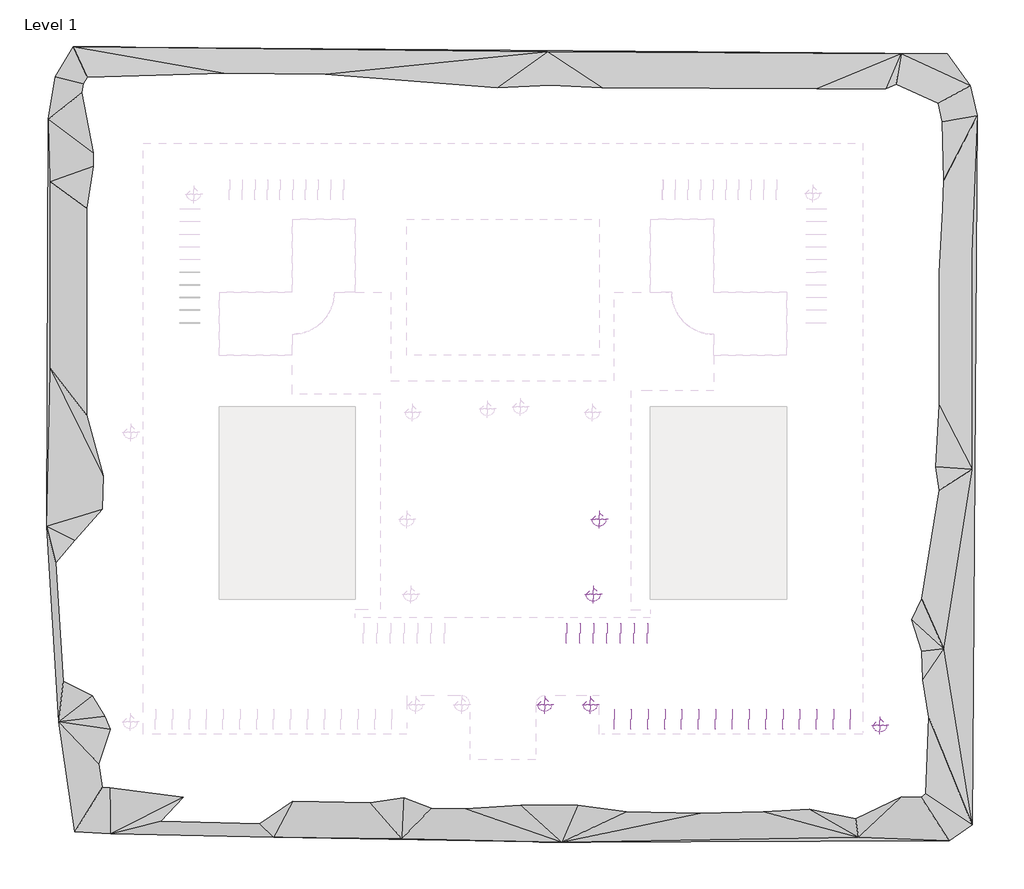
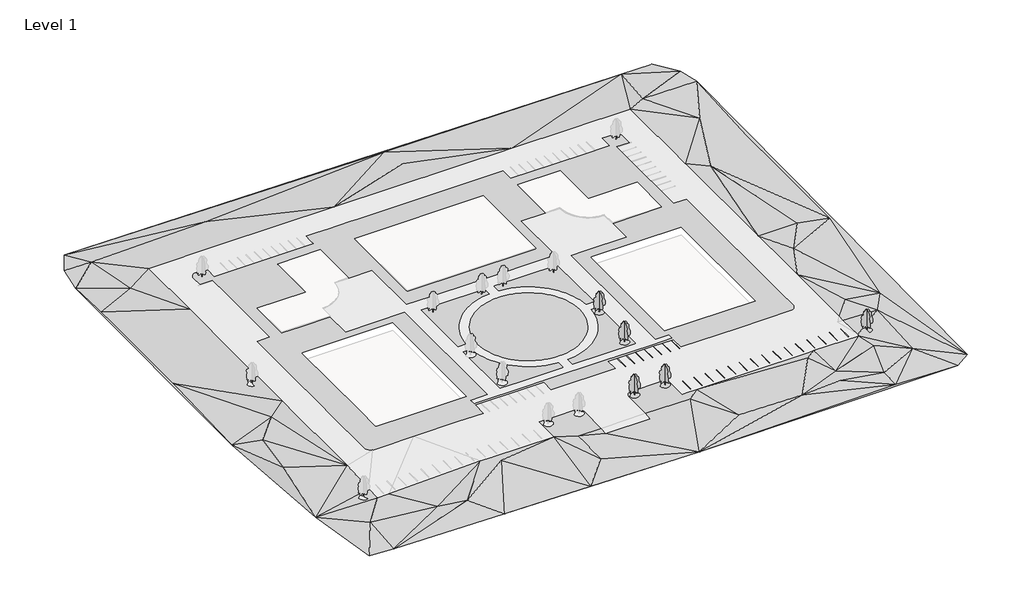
# One storey, part 2 of 3: 23 proxies, 5 geographic elements.
"""IFC4 building model written with IfcOpenShell, lengths in millimetres."""

from ifc_helpers import new_model, si_unit, origin, place, context, project, spatial, triangles, transform, mapped, element, save
from components import m_parking_space_4800_x_2400mm_90_deg_2b7ae786, m_parking_space_4800_x_2400mm_90_deg_cf846cf7, m_rpc_tree_deciduous_red_ash_7_6_meters_16c8020d

model = new_model("IFC4")

# Units and contexts
model_context = context("Model", 3, world=origin())
ifc_project = project(units=[si_unit("LENGTHUNIT", "METRE", prefix="MILLI")], contexts=[model_context])

# Site, building, storey
site = spatial("IfcSite", under=ifc_project)
building = spatial("IfcBuilding", under=site)
storey = spatial("IfcBuildingStorey", under=building, Name="Level 1", Elevation=0.0)

# Proxies
placement = place(None, origin())
element("IfcBuildingElementProxy", 1, Name="Building Element Proxy", at=placement, inside=storey, context=model_context, shape_type="Tessellation", body=[
    triangles([(-102169.9776123, 90842.6318115, 0.0), (-106385.301709, 83676.5947998, 0.0), (-108071.4220459, 73559.8262695, 0.0), (-108492.9591064, -22970.9839233, 0.0), (-105542.2368896, -69339.4931763, 0.0), (-101748.4498535, -95474.4700195, 0.0), (-93317.8109619, -95896.0070801, 0.0), (-54536.8711304, -96739.0718994, 0.0), (13751.2978455, -98003.6644775, 0.0), (105645.2538574, -97582.127417, 0.0), (111125.1705322, -93788.3403809, 0.0), (112389.7631104, 74402.8910889, 0.0), (110703.6427734, 81568.9281006, 0.0), (105223.7260986, 89156.5021729, 0.0), (-85535.6813232, -72322.6413208, 1983.1879601), (-85535.6813232, -67074.5988647, 2206.9487206), (-85535.6813232, -53825.1843384, 3049.9998779), (-85535.6813232, -14016.0200592, 3049.9998779), (-85535.6813232, 17541.3572021, 3049.9998779), (-85535.6813232, 42777.6354126, 3049.9998779), (-85535.6813232, 67885.3586792, 3049.9998779), (-60150.6587036, 67885.3586792, 3049.9998779), (-19981.6152283, 67885.3586792, 3049.9998779), (43350.9678589, 67885.3586792, 3049.9998779), (85152.3186768, 67885.3586792, 3049.9998779), (85152.3186768, 34057.6467407, 3049.9998779), (85152.3186768, -10563.9423981, 3049.9998779), (85152.3186768, -26828.7577515, 3049.9998779), (85152.3186768, -34557.1511353, 3049.9998779), (85152.3186768, -53151.4626709, 3049.9998779), (85152.3186768, -60490.0798462, 3049.9998779), (85152.3186768, -62436.5610352, 2858.9560158), (85152.3186768, -71605.2292969, 3049.9998779), (85152.3186768, -72322.6413208, 3049.9998779), (69215.7286377, -72322.6413208, 3049.9998779), (66812.228833, -72322.6413208, 3049.9998779), (27666.706604, -72322.6413208, 3049.9998779), (23909.6359314, -72322.6413208, 3049.9998779), (22616.3195251, -72322.6413208, 3049.9998779), (22616.3195251, -63177.6413818, 3049.9998779), (19669.4412598, -63177.6413818, 3049.9998779), (9771.5802979, -63177.6413818, 3049.9998779), (9351.1100327, -63219.0574585, 3049.9998779), (8946.7975021, -63341.7011353, 3049.9998779), (8574.1812927, -63540.8703735, 3049.9998779), (8247.5802979, -63808.9051758, 3049.9998779), (7979.546077, -64135.5038452, 3049.9998779), (7780.3785828, -64508.1229614, 3049.9998779), (7657.7319992, -64912.4331665, 3049.9998779), (7616.3188293, -65332.9051758, 3049.9998779), (7616.3188293, -75662.4746704, 3049.9998779), (7616.3188293, -78418.6459717, 2673.7301125), (-7999.6808945, -78418.6459717, 2673.7301125), (-7999.6808945, -75662.4746704, 3049.9998779), (-7999.6808945, -65332.9051758, 3049.9998779), (-8041.093483, -64912.4331665, 3049.9998779), (-8163.7406479, -64508.1229614, 3049.9998779), (-8362.9081421, -64135.5038452, 3049.9998779), (-8630.942363, -63808.9051758, 3049.9998779), (-8957.5433578, -63540.8703735, 3049.9998779), (-9330.1595673, -63341.7011353, 3049.9998779), (-9734.4715164, -63219.0574585, 3049.9998779), (-10154.9429443, -63177.6413818, 3049.9998779), (-16508.3272339, -63177.6413818, 3049.9998779), (-22999.6798462, -63177.6413818, 3049.9998779), (-22999.6798462, -69598.8029297, 3049.9998779), (-22999.6798462, -72322.6413208, 3049.9998779), (-45175.5681152, -72322.6413208, 3049.9998779), (-48930.6040283, -72322.6413208, 3049.9998779), (-81381.8232422, -72322.6413208, 2006.5802822), (-35191.6798462, 5349.3572021, 3049.9998779), (-67499.679895, 5349.3572021, 3049.9998779), (-67499.679895, -30046.6427307, 3049.9998779), (-67499.679895, -40071.9028931, 3049.9998779), (-67499.679895, -40266.6444946, 3049.9998779), (-67364.8788208, -40266.6444946, 3049.9998779), (-56001.1957031, -40266.6444946, 3049.9998779), (-35191.6798462, -40266.6444946, 3049.9998779), (22616.3195251, 17541.3572021, 3049.9998779), (22616.3195251, 49849.357251, 3049.9998779), (-14525.1052643, 49849.357251, 3049.9998779), (-19503.6444031, 49849.357251, 3049.9998779), (-22999.6798462, 49849.357251, 3049.9998779), (-22999.6798462, 17541.3572021, 3049.9998779), (-18647.4536407, 17541.3572021, 3049.9998779), (-4750.8262939, 17541.3572021, 3049.9998779), (34808.3195251, -40266.6444946, 3049.9998779), (67116.3172485, -40266.6444946, 3049.9998779), (67116.3172485, 5349.3572021, 3049.9998779), (34808.3195251, 5349.3572021, 3049.9998779), (-76390.6813843, 17541.3572021, 3049.9998779), (-76390.6813843, -2590.5180405, 3049.9998779), (-76390.6813843, -22144.2111328, 3049.9998779), (-76390.6813843, -27227.4310913, 3049.9998779), (-76390.6813843, -48539.3813965, 3049.9998779), (-76349.2699585, -48959.8534058, 3049.9998779), (-76226.6216309, -49364.1636108, 3049.9998779), (-76027.4523926, -49736.7780762, 3049.9998779), (-75759.4175903, -50063.3813965, 3049.9998779), (-75432.8189209, -50331.4161987, 3049.9998779), (-75060.2044556, -50530.585437, 3049.9998779), (-74655.8895996, -50653.2291138, 3049.9998779), (-74235.4175903, -50694.6405396, 3049.9998779), (-60146.5705811, -50694.6405396, 3049.9998779), (-44268.6885864, -50694.6405396, 3049.9998779), (-35191.6798462, -50694.6405396, 3049.9998779), (-35191.6798462, -45694.6434082, 3049.9998779), (-16971.6419769, -45694.6434082, 3049.9998779), (-11191.6808258, -45694.6434082, 3049.9998779), (-11191.6808258, -50266.6434082, 3049.9998779), (11808.3187683, -50266.6434082, 3049.9998779), (11808.3187683, -45694.6434082, 3049.9998779), (14380.2350372, -45694.6434082, 3049.9998779), (27601.8896301, -45694.6434082, 3049.9998779), (34808.3195251, -45694.6434082, 3049.9998779), (34808.3195251, -50266.6434082, 3049.9998779), (55536.4473267, -50266.6434082, 3049.9998779), (73852.0595947, -50266.6434082, 3049.9998779), (74272.5269531, -50225.2319824, 3049.9998779), (74676.8418091, -50102.5836548, 3049.9998779), (75049.4562744, -49903.4144165, 3049.9998779), (75376.0595947, -49635.3796143, 3049.9998779), (75644.0897461, -49308.7809448, 3049.9998779), (75843.2589844, -48936.1618286, 3049.9998779), (75965.907312, -48531.8516235, 3049.9998779), (76007.3187378, -48111.3796143, 3049.9998779), (76007.3187378, -40266.6444946, 3049.9998779), (76007.3187378, -34066.0741333, 3049.9998779), (76007.3187378, 6598.6321106, 3049.9998779), (76007.3187378, 17541.3572021, 3049.9998779), (71435.3187378, 17541.3572021, 3049.9998779), (71435.3187378, 45158.1180176, 3049.9998779), (71435.3187378, 52541.3557251, 3049.9998779), (76007.3187378, 52541.3557251, 3049.9998779), (76007.3187378, 56585.0949463, 3049.9998779), (75965.907312, 57005.5669556, 3049.9998779), (75843.2589844, 57409.8771606, 3049.9998779), (75644.0897461, 57782.4962769, 3049.9998779), (75376.0595947, 58109.0949463, 3049.9998779), (75049.4562744, 58377.1297485, 3049.9998779), (74676.8418091, 58576.2989868, 3049.9998779), (74272.5269531, 58698.9426636, 3049.9998779), (73852.0595947, 58740.3587402, 3049.9998779), (69808.3203735, 58740.3587402, 3049.9998779), (69808.3203735, 54168.3587402, 3049.9998779), (60301.2448608, 54168.3587402, 3049.9998779), (50660.0054443, 54168.3587402, 3049.9998779), (41448.958374, 54168.3587402, 3049.9998779), (34808.3195251, 54168.3587402, 3049.9998779), (34808.3195251, 58740.3587402, 3049.9998779), (-17214.9375916, 58740.3587402, 3049.9998779), (-19739.2625793, 58740.3587402, 3049.9998779), (-27301.2963501, 58740.3587402, 3049.9998779), (-31889.525592, 58740.3587402, 3049.9998779), (-35191.6798462, 58740.3587402, 3049.9998779), (-35191.6798462, 56204.3786499, 3049.9998779), (-35191.6798462, 54168.3587402, 3049.9998779), (-37842.8319763, 54168.3587402, 3049.9998779), (-67067.1993164, 54168.3587402, 3049.9998779), (-70191.68302, 54168.3587402, 3049.9998779), (-70191.68302, 57954.0206909, 3049.9998779), (-70191.68302, 58740.3587402, 3049.9998779), (-74235.4175903, 58740.3587402, 3049.9998779), (-74655.8895996, 58698.9426636, 3049.9998779), (-75060.2044556, 58576.2989868, 3049.9998779), (-75432.8189209, 58377.1297485, 3049.9998779), (-75759.4175903, 58109.0949463, 3049.9998779), (-76027.4523926, 57782.4962769, 3049.9998779), (-76226.6216309, 57409.8771606, 3049.9998779), (-76349.2699585, 57005.5669556, 3049.9998779), (-76390.6813843, 56585.0949463, 3049.9998779), (-76390.6813843, 52541.3557251, 3049.9998779), (-75664.1257324, 52541.3557251, 3049.9998779), (-71818.6813843, 52541.3557251, 3049.9998779), (-71818.6813843, 44745.1385742, 3049.9998779), (-71818.6813843, 28075.6955933, 3049.9998779), (-71818.6813843, 17541.3572021, 3049.9998779), (67116.3172485, 17541.3572021, 3049.9998779), (49808.3178955, 17541.3572021, 3049.9998779), (49808.3178955, 9180.7314789, 3049.9998779), (35210.9461121, 9180.7314789, 3049.9998779), (30133.6467224, 9180.7314789, 3049.9998779), (30133.6467224, -27435.9834778, 3049.9998779), (30133.6467224, -42819.2700806, 3049.9998779), (34808.3195251, -42819.2700806, 3049.9998779), (34808.3195251, -44694.6439819, 3049.9998779), (27740.5509338, -44694.6439819, 3049.9998779), (14077.7000153, -44694.6439819, 3049.9998779), (11808.3187683, -44694.6439819, 3049.9998779), (-11191.6808258, -44694.6439819, 3049.9998779), (-16998.1438477, -44694.6439819, 3049.9998779), (-35191.6798462, -44694.6439819, 3049.9998779), (-35191.6798462, -42694.6404785, 3049.9998779), (-29191.6809631, -42694.6404785, 3049.9998779), (-29191.6809631, 8305.3575851, 3049.9998779), (-50191.680542, 8305.3575851, 3049.9998779), (-50191.680542, 17541.3572021, 3049.9998779), (-60277.078894, 17541.3572021, 3049.9998779), (-67499.679895, 17541.3572021, 3049.9998779), (-67499.679895, 31392.5861572, 3049.9998779), (-67499.679895, 32541.3578979, 3049.9998779), (-66003.8409668, 32541.3578979, 3049.9998779), (-50191.680542, 32541.3578979, 3049.9998779), (-50191.680542, 44684.7283081, 3049.9998779), (-50191.680542, 49849.357251, 3049.9998779), (-43466.7003296, 49849.357251, 3049.9998779), (-35191.6798462, 49849.357251, 3049.9998779), (-35191.6798462, 48882.337207, 3049.9998779), (-35191.6798462, 32541.3578979, 3049.9998779), (-26831.0552856, 32541.3578979, 3049.9998779), (-26831.0552856, 11541.3571564, 3049.9998779), (-18488.44823, 11541.3571564, 3049.9998779), (-2935.6202316, 11541.3571564, 3049.9998779), (26168.9445374, 11541.3571564, 3049.9998779), (26168.9445374, 32541.3578979, 3049.9998779), (34808.3195251, 32541.3578979, 3049.9998779), (34808.3195251, 49849.357251, 3049.9998779), (40850.0833008, 49849.357251, 3049.9998779), (49808.3178955, 49849.357251, 3049.9998779), (49808.3178955, 32541.3578979, 3049.9998779), (62183.8555298, 32541.3578979, 3049.9998779), (67116.3172485, 32541.3578979, 3049.9998779), (67116.3172485, 23284.5205994, 3049.9998779), (-21426.7688782, -15958.6421814, 3049.9998779), (-21275.5246216, -14517.4743347, 3049.9998779), (-21026.5863281, -13089.9335632, 3049.9998779), (-20681.1097412, -11682.6357422, 3049.9998779), (-20240.6924377, -10302.1014038, 3049.9998779), (-19707.3761536, -8954.727832, 3049.9998779), (-19083.6328308, -7646.7576691, 3049.9998779), (-18372.351828, -6384.2515915, 3049.9998779), (-18027.3240509, -5858.9429581, 3049.9998779), (-17576.8294556, -5173.0592422, 3049.9998779), (-16700.751535, -4018.7939415, 3049.9998779), (-15748.177121, -2926.8027466, 3049.9998779), (-14723.5210602, -1902.1463951, 3049.9998779), (-13631.5295746, -949.5721264, 3049.9998779), (-12477.2639832, -73.4940514, 3049.9998779), (-11266.0716339, 722.0285299, 3049.9998779), (-10003.5661377, 1433.3094601, 3049.9998779), (-8695.5959747, 2057.0529282, 3049.9998779), (-7348.222403, 2590.3689217, 3049.9998779), (-5967.6880646, 3030.7859344, 3049.9998779), (-4560.3902435, 3376.2636841, 3049.9998779), (-3132.8497627, 3625.2011055, 3049.9998779), (-1691.6808987, 3776.4450714, 3049.9998779), (-1691.6808987, 6776.4450943, 3049.9998779), (-18362.1733795, 6776.4450943, 3049.9998779), (-24426.7694824, 6776.4450943, 3049.9998779), (-24426.7694824, -15958.6421814, 3049.9998779), (-21426.7688782, -18958.6427856, 3049.9998779), (-24426.7694824, -18958.6427856, 3049.9998779), (-24426.7694824, -41693.72948, 3049.9998779), (-17077.6703888, -41693.72948, 3049.9998779), (-1691.6808987, -41693.72948, 3049.9998779), (-1691.6808987, -38693.7312012, 3049.9998779), (-3132.8497627, -38542.4869446, 3049.9998779), (-4560.3902435, -38293.5486511, 3049.9998779), (-5967.6880646, -37948.0720642, 3049.9998779), (-7348.222403, -37507.6547607, 3049.9998779), (-8695.5959747, -36974.3384766, 3049.9998779), (-10003.5661377, -36350.5951538, 3049.9998779), (-11266.0716339, -35639.3129883, 3049.9998779), (-12477.2639832, -34843.7917786, 3049.9998779), (-13631.5295746, -33967.7126953, 3049.9998779), (-14723.5210602, -33015.1382813, 3049.9998779), (-15748.177121, -31990.4822205, 3049.9998779), (-16700.751535, -30898.4907349, 3049.9998779), (-17387.7409973, -29993.3576111, 3049.9998779), (-17576.8294556, -29744.2263062, 3049.9998779), (-18372.351828, -28533.0327942, 3049.9998779), (-19083.6328308, -27270.5284607, 3049.9998779), (-19707.3761536, -25962.557135, 3049.9998779), (-20240.6924377, -24615.1835632, 3049.9998779), (-20681.1097412, -23234.6492249, 3049.9998779), (-21026.5863281, -21827.3514038, 3049.9998779), (-21275.5246216, -20399.8106323, 3049.9998779), (1308.3191242, 3776.4450714, 3049.9998779), (2749.4876976, 3625.2011055, 3049.9998779), (4177.0284691, 3376.2636841, 3049.9998779), (5584.3259995, 3030.7859344, 3049.9998779), (6964.8603378, 2590.3689217, 3049.9998779), (8312.2339096, 2057.0529282, 3049.9998779), (9620.2040726, 1433.3094601, 3049.9998779), (10882.7101501, 722.0285299, 3049.9998779), (12093.9024994, -73.4940514, 3049.9998779), (13248.1680908, -949.5721264, 3049.9998779), (14340.1584137, -1902.1463951, 3049.9998779), (15364.8156372, -2926.8027466, 3049.9998779), (16317.3900513, -4018.7939415, 3049.9998779), (17193.4679718, -5173.0592422, 3049.9998779), (17988.9903442, -6384.2515915, 3049.9998779), (18700.271347, -7646.7576691, 3049.9998779), (19324.0146698, -8954.727832, 3049.9998779), (19857.3297913, -10302.1014038, 3049.9998779), (20297.7470947, -11682.6357422, 3049.9998779), (20643.2260071, -13089.9335632, 3049.9998779), (20892.1619751, -14517.4743347, 3049.9998779), (21043.4062317, -15958.6421814, 3049.9998779), (24043.4068359, -15958.6421814, 3049.9998779), (24043.4068359, 6776.4450943, 3049.9998779), (1308.3191242, 6776.4450943, 3049.9998779), (21043.4062317, -18958.6427856, 3049.9998779), (20892.1619751, -20399.8106323, 3049.9998779), (20643.2260071, -21827.3514038, 3049.9998779), (20297.7470947, -23234.6492249, 3049.9998779), (19857.3297913, -24615.1835632, 3049.9998779), (19324.0146698, -25962.557135, 3049.9998779), (18700.271347, -27270.5284607, 3049.9998779), (17988.9903442, -28533.0327942, 3049.9998779), (17193.4679718, -29744.2263062, 3049.9998779), (16317.3900513, -30898.4907349, 3049.9998779), (15364.8156372, -31990.4822205, 3049.9998779), (14340.1584137, -33015.1382813, 3049.9998779), (13248.1680908, -33967.7126953, 3049.9998779), (12093.9024994, -34843.7917786, 3049.9998779), (11262.6544006, -35389.7631042, 3049.9998779), (10882.7101501, -35639.3129883, 3049.9998779), (9620.2040726, -36350.5951538, 3049.9998779), (8312.2339096, -36974.3384766, 3049.9998779), (6964.8603378, -37507.6547607, 3049.9998779), (5584.3259995, -37948.0720642, 3049.9998779), (4177.0284691, -38293.5486511, 3049.9998779), (2749.4876976, -38542.4869446, 3049.9998779), (1308.3191242, -38693.7312012, 3049.9998779), (1308.3191242, -41693.72948, 3049.9998779), (13169.8217102, -41693.72948, 3049.9998779), (24043.4068359, -41693.72948, 3049.9998779), (24043.4068359, -18958.6427856, 3049.9998779), (-18479.6813232, -17458.6424835, 3049.9998779), (-18430.8936035, -18793.5807678, 3049.9998779), (-18284.7920563, -20121.3973938, 3049.9998779), (-18042.1568665, -21435.0055847, 3049.9998779), (-17704.2809784, -22727.3987915, 3049.9998779), (-17569.8531372, -23121.439856, 3049.9998779), (-17272.9677704, -23991.6820862, 3049.9998779), (-16750.5182648, -25221.1070435, 3049.9998779), (-16139.7206635, -26409.1159241, 3049.9998779), (-15443.8329071, -27549.3719055, 3049.9998779), (-14666.5687225, -28635.7869873, 3049.9998779), (-13812.0743683, -29662.5684998, 3049.9998779), (-12884.9100311, -30624.2377075, 3049.9998779), (-11890.0207581, -31515.6623657, 3049.9998779), (-10832.7166901, -32332.0846252, 3049.9998779), (-9718.6375992, -33069.1535889, 3049.9998779), (-8553.7284714, -33722.9322876, 3049.9998779), (-7344.2040436, -34289.9325623, 3049.9998779), (-6096.5179916, -34767.133667, 3049.9998779), (-4817.3265953, -35151.9845947, 3049.9998779), (-3513.4556007, -35442.4343079, 3049.9998779), (-2191.8615601, -35636.9317383, 3049.9998779), (-859.5957144, -35734.4420654, 3049.9998779), (476.2338309, -35734.4420654, 3049.9998779), (1808.4997856, -35636.9317383, 3049.9998779), (3130.0938263, -35442.4343079, 3049.9998779), (4433.9648209, -35151.9845947, 3049.9998779), (5713.1559265, -34767.133667, 3049.9998779), (6960.8419785, -34289.9325623, 3049.9998779), (8170.3664063, -33722.9322876, 3049.9998779), (9335.2761154, -33069.1535889, 3049.9998779), (10356.2399597, -32393.6901672, 3049.9998779), (10449.3552063, -32332.0846252, 3049.9998779), (11506.6592743, -31515.6623657, 3049.9998779), (12501.5473846, -30624.2377075, 3049.9998779), (13428.7128845, -29662.5684998, 3049.9998779), (14283.2072388, -28635.7869873, 3049.9998779), (15060.4714233, -27549.3719055, 3049.9998779), (15756.3591797, -26409.1159241, 3049.9998779), (16367.156781, -25221.1070435, 3049.9998779), (16889.6051239, -23991.6820862, 3049.9998779), (17320.9183319, -22727.3987915, 3049.9998779), (17658.79422, -21435.0055847, 3049.9998779), (17901.4305725, -20121.3973938, 3049.9998779), (18047.5321198, -18793.5807678, 3049.9998779), (18096.3186768, -17458.6424835, 3049.9998779), (18047.5321198, -16123.7041992, 3049.9998779), (17901.4305725, -14795.888736, 3049.9998779), (17658.79422, -13482.2793823, 3049.9998779), (17320.9183319, -12189.8861755, 3049.9998779), (16889.6051239, -10925.6040436, 3049.9998779), (16367.156781, -9696.1785049, 3049.9998779), (15756.3591797, -8508.169043, 3049.9998779), (15060.4714233, -7367.9142242, 3049.9998779), (14283.2072388, -6281.4979797, 3049.9998779), (13428.7128845, -5254.7164673, 3049.9998779), (12501.5473846, -4293.0478409, 3049.9998779), (11506.6592743, -3401.623764, 3049.9998779), (10449.3552063, -2585.1997604, 3049.9998779), (9335.2761154, -1848.1322502, 3049.9998779), (8170.3664063, -1194.3534061, 3049.9998779), (6960.8419785, -627.3516054, 3049.9998779), (5713.1559265, -150.152054, 3049.9998779), (4433.9648209, 234.699228, 3049.9998779), (3130.0938263, 525.1488685, 3049.9998779), (1808.4997856, 719.6472073, 3049.9998779), (476.2338309, 817.156517, 3049.9998779), (308.8186864, 817.156517, 3049.9998779), (-859.5957144, 817.156517, 3049.9998779), (-2191.8615601, 719.6472073, 3049.9998779), (-3513.4556007, 525.1488685, 3049.9998779), (-4817.3265953, 234.699228, 3049.9998779), (-6096.5179916, -150.152054, 3049.9998779), (-7344.2040436, -627.3516054, 3049.9998779), (-8553.7284714, -1194.3534061, 3049.9998779), (-9718.6375992, -1848.1322502, 3049.9998779), (-10832.7166901, -2585.1997604, 3049.9998779), (-11890.0207581, -3401.623764, 3049.9998779), (-12884.9100311, -4293.0478409, 3049.9998779), (-13812.0743683, -5254.7164673, 3049.9998779), (-14666.5687225, -6281.4979797, 3049.9998779), (-15443.8329071, -7367.9142242, 3049.9998779), (-16139.7206635, -8508.169043, 3049.9998779), (-16750.5182648, -9696.1785049, 3049.9998779), (-17272.9677704, -10925.6040436, 3049.9998779), (-17704.2809784, -12189.8861755, 3049.9998779), (-17845.2584198, -12729.1323303, 3049.9998779), (-18042.1568665, -13482.2793823, 3049.9998779), (-18284.7920563, -14795.888736, 3049.9998779), (-18430.8936035, -16123.7041992, 3049.9998779), (10379.0420563, 89578.0392334, 0.0), (94263.892749, 89156.5021729, 0.0), (111125.1705322, 42366.4651611, 0.0), (111125.1705322, -9481.9619293, 0.0), (104380.6612793, -52056.6829834, 0.0), (84147.1242188, -96739.0718994, 0.0), (-24186.5748413, -97160.5996582, 0.0), (-107649.8942871, 14545.3575165, 0.0), (-107649.8942871, 58806.2105347, 0.0), (-97954.6628174, 81568.9281006, 1524.999939), (11222.1068756, 79461.2707031, 1524.999939), (102273.0038818, 55012.4234985, 1524.999939), (100165.3371826, -8638.8976913, 1524.999939), (98057.6797852, -61330.3866943, 1524.999939), (97214.6149658, -84514.6459717, 1524.999939), (83304.0593994, -91259.1552246, 1524.999939), (33141.7654358, -88729.9607666, 1524.999939), (-15334.4047028, -87886.8959473, 1524.999939), (-71398.1489136, -84936.1737305, 1524.999939), (-93493.1118896, -82017.8774414, 1524.999939), (-100052.7580078, -27195.8632507, 1524.999939), (-91631.6813232, -17912.5996582, 1524.999939), (-94582.40354, 63443.0577393, 1524.999939), (-56644.5331787, 82833.5299805, 1524.999939), (70658.1057129, -83250.0440918, 1524.999939), (55482.9575684, -89151.4978271, 1524.999939), (69393.5084839, -88308.4330078, 1524.999939), (91248.3186768, 70805.124646, 3049.9998779), (91248.3186768, 29124.4641357, 3049.9998779), (91248.3186768, -22004.4080383, 3049.9998779), (65599.7214478, -74819.4098511, 3049.9998779), (23446.5316406, -75662.4746704, 3049.9998779), (-16177.4683594, -75662.4746704, 3049.9998779), (-43155.510022, -75240.9422607, 3049.9998779), (-62967.510022, -88535.4052002, 3049.9998779), (-103013.0424316, -44993.4350464, 3049.9998779), (86676.3186768, -79034.7292969, 3049.9998779), (91248.3186768, -53547.5873291, 3049.9998779)], [[5, 6, 439], [439, 6, 7], [5, 439, 15], [15, 16, 5], [439, 70, 15], [439, 7, 438], [70, 439, 438], [5, 16, 17], [97, 98, 99], [100, 101, 95], [96, 99, 100], [97, 99, 96], [102, 95, 101], [5, 17, 455], [7, 454, 438], [454, 7, 8], [454, 8, 453], [438, 454, 69], [453, 67, 68], [453, 69, 454], [68, 69, 453], [453, 426, 67], [453, 8, 426], [8, 9, 426], [76, 103, 104], [77, 104, 105], [107, 108, 191], [64, 65, 66], [103, 95, 102], [66, 67, 452], [70, 438, 69], [107, 105, 106], [96, 100, 95], [455, 17, 440], [75, 95, 103], [77, 76, 104], [103, 76, 75], [107, 192, 105], [74, 95, 75], [4, 440, 441], [440, 4, 455], [440, 17, 441], [4, 441, 427], [74, 73, 94], [93, 94, 73], [92, 93, 73], [95, 74, 94], [441, 17, 18], [105, 192, 193], [455, 4, 5], [193, 194, 78], [78, 77, 105], [78, 105, 193], [273, 274, 253], [192, 107, 191], [274, 252, 253], [272, 253, 271], [272, 273, 253], [252, 277, 251], [277, 252, 276], [274, 275, 252], [275, 276, 252], [78, 194, 71], [67, 426, 437], [55, 63, 64], [437, 452, 67], [64, 452, 55], [61, 62, 63], [109, 112, 190], [60, 61, 63], [452, 437, 53], [267, 253, 254], [190, 191, 108], [254, 261, 262], [263, 254, 262], [255, 259, 260], [190, 108, 109], [254, 263, 264], [63, 58, 59], [58, 63, 57], [109, 110, 111], [56, 63, 55], [57, 63, 56], [55, 452, 54], [63, 59, 60], [261, 254, 260], [260, 254, 255], [257, 258, 255], [258, 259, 255], [54, 452, 53], [437, 9, 53], [271, 253, 270], [253, 269, 270], [268, 253, 267], [337, 338, 335], [268, 269, 253], [419, 330, 416], [335, 331, 332], [335, 330, 331], [337, 335, 336], [333, 334, 335], [332, 333, 335], [335, 350, 351], [335, 338, 339], [264, 265, 254], [350, 335, 349], [349, 335, 348], [347, 348, 335], [335, 346, 347], [342, 335, 341], [335, 342, 343], [335, 345, 346], [335, 344, 345], [344, 335, 343], [335, 340, 341], [335, 339, 340], [265, 266, 254], [267, 254, 266], [416, 330, 335], [416, 335, 361], [64, 66, 452], [426, 9, 437], [427, 18, 19], [18, 427, 441], [427, 19, 20], [177, 72, 199], [92, 72, 91], [72, 177, 91], [199, 176, 177], [173, 174, 171], [176, 200, 201], [200, 176, 199], [159, 174, 175], [201, 175, 176], [202, 175, 201], [427, 20, 428], [198, 196, 197], [196, 198, 72], [71, 194, 195], [195, 196, 71], [207, 208, 83], [72, 92, 73], [196, 72, 71], [175, 204, 159], [204, 202, 203], [204, 175, 202], [158, 205, 206], [83, 157, 207], [205, 159, 204], [209, 210, 208], [198, 199, 72], [158, 206, 207], [166, 170, 165], [171, 165, 170], [168, 169, 167], [166, 167, 169], [169, 170, 166], [172, 173, 171], [2, 3, 429], [428, 3, 427], [442, 3, 428], [442, 21, 429], [442, 20, 21], [443, 1, 429], [1, 2, 429], [443, 429, 21], [429, 3, 442], [20, 442, 428], [171, 163, 164], [171, 174, 163], [161, 163, 160], [174, 160, 163], [159, 205, 158], [157, 154, 156], [159, 160, 174], [171, 164, 165], [161, 162, 163], [22, 443, 21], [155, 156, 154], [443, 22, 23], [157, 153, 154], [153, 157, 83], [207, 157, 158], [1, 443, 420], [427, 3, 4], [250, 227, 228], [226, 227, 250], [417, 418, 416], [414, 415, 416], [403, 404, 397], [250, 228, 249], [249, 228, 229], [230, 231, 249], [232, 233, 249], [231, 232, 249], [249, 229, 230], [412, 416, 411], [416, 412, 413], [409, 410, 416], [408, 409, 416], [410, 411, 416], [414, 416, 413], [235, 236, 248], [234, 235, 248], [407, 416, 406], [405, 406, 416], [408, 416, 407], [405, 416, 404], [418, 419, 416], [233, 234, 249], [84, 211, 212], [241, 242, 248], [248, 249, 234], [86, 85, 212], [212, 85, 84], [236, 237, 248], [152, 153, 83], [210, 84, 83], [83, 208, 210], [82, 81, 151], [151, 152, 82], [81, 80, 151], [82, 152, 83], [80, 150, 151], [237, 238, 248], [210, 211, 84], [240, 248, 239], [401, 402, 397], [397, 400, 401], [402, 403, 397], [399, 400, 397], [242, 247, 248], [243, 247, 242], [247, 243, 244], [212, 213, 86], [247, 244, 245], [248, 240, 241], [239, 248, 238], [86, 213, 79], [397, 404, 416], [250, 225, 226], [250, 224, 225], [443, 23, 420], [352, 335, 351], [42, 49, 50], [50, 39, 42], [48, 49, 42], [42, 47, 48], [451, 51, 52], [325, 326, 324], [323, 324, 326], [322, 326, 327], [323, 326, 322], [255, 256, 257], [45, 42, 44], [42, 45, 46], [44, 42, 43], [46, 47, 42], [39, 50, 51], [189, 190, 112], [319, 320, 327], [327, 321, 322], [320, 321, 327], [112, 113, 188], [314, 327, 328], [188, 189, 112], [319, 327, 318], [188, 113, 187], [109, 111, 112], [52, 53, 9], [361, 352, 353], [354, 361, 353], [327, 317, 318], [361, 354, 355], [361, 355, 356], [361, 357, 358], [361, 358, 359], [361, 397, 416], [362, 363, 361], [361, 359, 360], [361, 356, 357], [364, 361, 363], [315, 316, 327], [328, 313, 314], [328, 311, 312], [312, 313, 328], [315, 327, 314], [367, 361, 366], [361, 367, 368], [369, 361, 368], [370, 371, 361], [369, 370, 361], [365, 366, 361], [310, 311, 328], [364, 365, 361], [327, 316, 317], [372, 361, 371], [52, 9, 451], [352, 361, 335], [436, 37, 451], [436, 451, 9], [436, 9, 445], [445, 37, 436], [444, 450, 445], [444, 446, 435], [450, 37, 445], [35, 450, 444], [444, 445, 446], [445, 425, 446], [36, 450, 35], [41, 39, 40], [41, 42, 39], [38, 39, 451], [451, 37, 38], [450, 36, 37], [35, 444, 34], [39, 51, 451], [444, 456, 34], [425, 435, 446], [434, 435, 425], [10, 11, 434], [456, 434, 34], [456, 435, 434], [434, 433, 34], [434, 425, 10], [425, 9, 10], [433, 434, 11], [457, 30, 31], [433, 31, 32], [433, 457, 31], [433, 33, 34], [30, 457, 29], [424, 457, 433], [433, 11, 424], [433, 32, 33], [11, 423, 424], [444, 435, 456], [9, 425, 445], [29, 457, 424], [187, 114, 115], [115, 186, 187], [115, 116, 117], [185, 186, 117], [115, 117, 186], [184, 185, 87], [309, 328, 308], [308, 328, 307], [183, 184, 87], [307, 329, 306], [328, 329, 307], [310, 328, 309], [185, 117, 87], [113, 114, 187], [88, 117, 118], [118, 119, 126], [120, 126, 119], [125, 121, 122], [123, 124, 122], [120, 121, 126], [125, 122, 124], [88, 126, 127], [118, 126, 88], [89, 88, 128], [128, 88, 127], [126, 121, 125], [449, 28, 29], [29, 424, 449], [117, 88, 87], [424, 423, 449], [28, 449, 27], [379, 380, 397], [397, 378, 379], [397, 361, 377], [397, 377, 378], [361, 374, 375], [373, 374, 361], [381, 397, 380], [385, 397, 384], [383, 384, 397], [397, 382, 383], [301, 289, 290], [382, 397, 381], [397, 385, 386], [361, 376, 377], [304, 305, 329], [304, 329, 303], [301, 292, 293], [301, 291, 292], [300, 296, 297], [295, 296, 300], [300, 301, 295], [300, 297, 298], [361, 375, 376], [301, 290, 291], [392, 397, 391], [396, 397, 395], [393, 394, 397], [395, 397, 394], [397, 392, 393], [397, 398, 399], [247, 245, 246], [280, 281, 302], [278, 279, 302], [280, 302, 279], [302, 281, 282], [397, 389, 390], [389, 397, 388], [301, 286, 287], [287, 288, 301], [397, 390, 391], [301, 283, 284], [301, 284, 285], [24, 420, 430], [430, 420, 23], [301, 285, 286], [302, 282, 301], [301, 282, 283], [301, 288, 289], [388, 397, 387], [386, 387, 397], [298, 299, 300], [361, 372, 373], [294, 295, 301], [182, 90, 181], [301, 293, 294], [180, 181, 90], [183, 90, 182], [87, 90, 183], [79, 213, 214], [79, 215, 80], [214, 215, 79], [217, 215, 216], [80, 215, 217], [179, 180, 178], [89, 131, 178], [131, 89, 129], [178, 131, 223], [449, 432, 27], [329, 305, 306], [27, 448, 26], [27, 432, 448], [130, 131, 129], [129, 89, 128], [89, 180, 90], [448, 432, 423], [222, 132, 221], [132, 222, 131], [223, 131, 222], [220, 221, 219], [448, 431, 26], [423, 422, 448], [132, 146, 221], [423, 12, 422], [178, 180, 89], [448, 422, 431], [217, 218, 149], [149, 218, 148], [149, 150, 80], [147, 219, 146], [133, 145, 132], [147, 148, 219], [221, 146, 219], [219, 148, 218], [430, 23, 24], [133, 143, 145], [142, 143, 135], [143, 144, 145], [132, 145, 146], [143, 133, 135], [149, 80, 217], [138, 140, 137], [136, 137, 141], [136, 141, 142], [136, 142, 135], [138, 139, 140], [140, 141, 137], [25, 447, 421], [447, 25, 431], [25, 421, 24], [13, 421, 447], [421, 14, 420], [14, 421, 13], [13, 447, 12], [431, 12, 447], [431, 422, 12], [135, 133, 134], [431, 25, 26], [24, 421, 420], [423, 11, 12], [423, 432, 449], [420, 14, 1]], closed=False),
])
m_parking_space_4800_x_2400mm_90_deg_shape = m_parking_space_4800_x_2400mm_90_deg_2b7ae786(model_context)
element("IfcBuildingElementProxy", 2, Name="M_Parking Space : 4800 x 2400mm - 90 deg", ObjectType="M_Parking Space : 4800 x 2400mm - 90 deg", at=placement, inside=storey, context=model_context, shape_type="MappedRepresentation", body=[
    mapped(m_parking_space_4800_x_2400mm_90_deg_shape, transform((26208.3190688, -71177.6426237, 3050.7803686), x_axis=(-1.0, 0.0, 0.0), y_axis=(0.0, -1.0, 0.0), z_axis=(0.0, 0.0, 1.0))),
])
element("IfcBuildingElementProxy", 3, Name="M_Parking Space : 4800 x 2400mm - 90 deg", ObjectType="M_Parking Space : 4800 x 2400mm - 90 deg", at=placement, inside=storey, context=model_context, shape_type="MappedRepresentation", body=[
    mapped(m_parking_space_4800_x_2400mm_90_deg_shape, transform((30208.3190688, -71177.6426237, 3050.7803686), x_axis=(-1.0, 0.0, 0.0), y_axis=(0.0, -1.0, 0.0), z_axis=(0.0, 0.0, 1.0))),
])
element("IfcBuildingElementProxy", 4, Name="M_Parking Space : 4800 x 2400mm - 90 deg", ObjectType="M_Parking Space : 4800 x 2400mm - 90 deg", at=placement, inside=storey, context=model_context, shape_type="MappedRepresentation", body=[
    mapped(m_parking_space_4800_x_2400mm_90_deg_shape, transform((34208.3190688, -71177.6426237, 3050.7803686), x_axis=(-1.0, 0.0, 0.0), y_axis=(0.0, -1.0, 0.0), z_axis=(0.0, 0.0, 1.0))),
])
element("IfcBuildingElementProxy", 5, Name="M_Parking Space : 4800 x 2400mm - 90 deg", ObjectType="M_Parking Space : 4800 x 2400mm - 90 deg", at=placement, inside=storey, context=model_context, shape_type="MappedRepresentation", body=[
    mapped(m_parking_space_4800_x_2400mm_90_deg_shape, transform((38208.3190688, -71177.6426237, 3050.7803686), x_axis=(-1.0, 0.0, 0.0), y_axis=(0.0, -1.0, 0.0), z_axis=(0.0, 0.0, 1.0))),
])
element("IfcBuildingElementProxy", 6, Name="M_Parking Space : 4800 x 2400mm - 90 deg", ObjectType="M_Parking Space : 4800 x 2400mm - 90 deg", at=placement, inside=storey, context=model_context, shape_type="MappedRepresentation", body=[
    mapped(m_parking_space_4800_x_2400mm_90_deg_shape, transform((42208.3190688, -71177.6426237, 3050.7803686), x_axis=(-1.0, 0.0, 0.0), y_axis=(0.0, -1.0, 0.0), z_axis=(0.0, 0.0, 1.0))),
])
element("IfcBuildingElementProxy", 7, Name="M_Parking Space : 4800 x 2400mm - 90 deg", ObjectType="M_Parking Space : 4800 x 2400mm - 90 deg", at=placement, inside=storey, context=model_context, shape_type="MappedRepresentation", body=[
    mapped(m_parking_space_4800_x_2400mm_90_deg_shape, transform((46208.3190688, -71177.6426237, 3050.7803686), x_axis=(-1.0, 0.0, 0.0), y_axis=(0.0, -1.0, 0.0), z_axis=(0.0, 0.0, 1.0))),
])
element("IfcBuildingElementProxy", 8, Name="M_Parking Space : 4800 x 2400mm - 90 deg", ObjectType="M_Parking Space : 4800 x 2400mm - 90 deg", at=placement, inside=storey, context=model_context, shape_type="MappedRepresentation", body=[
    mapped(m_parking_space_4800_x_2400mm_90_deg_shape, transform((50208.3190688, -71177.6426237, 3050.7803686), x_axis=(-1.0, 0.0, 0.0), y_axis=(0.0, -1.0, 0.0), z_axis=(0.0, 0.0, 1.0))),
])
element("IfcBuildingElementProxy", 9, Name="M_Parking Space : 4800 x 2400mm - 90 deg", ObjectType="M_Parking Space : 4800 x 2400mm - 90 deg", at=placement, inside=storey, context=model_context, shape_type="MappedRepresentation", body=[
    mapped(m_parking_space_4800_x_2400mm_90_deg_shape, transform((54208.3190688, -71177.6426237, 3050.7803686), x_axis=(-1.0, 0.0, 0.0), y_axis=(0.0, -1.0, 0.0), z_axis=(0.0, 0.0, 1.0))),
])
element("IfcBuildingElementProxy", 10, Name="M_Parking Space : 4800 x 2400mm - 90 deg", ObjectType="M_Parking Space : 4800 x 2400mm - 90 deg", at=placement, inside=storey, context=model_context, shape_type="MappedRepresentation", body=[
    mapped(m_parking_space_4800_x_2400mm_90_deg_shape, transform((58208.3190688, -71177.6426237, 3050.7803686), x_axis=(-1.0, 0.0, 0.0), y_axis=(0.0, -1.0, 0.0), z_axis=(0.0, 0.0, 1.0))),
])
element("IfcBuildingElementProxy", 11, Name="M_Parking Space : 4800 x 2400mm - 90 deg", ObjectType="M_Parking Space : 4800 x 2400mm - 90 deg", at=placement, inside=storey, context=model_context, shape_type="MappedRepresentation", body=[
    mapped(m_parking_space_4800_x_2400mm_90_deg_shape, transform((62208.3190688, -71177.6426237, 3050.7803686), x_axis=(-1.0, 0.0, 0.0), y_axis=(0.0, -1.0, 0.0), z_axis=(0.0, 0.0, 1.0))),
])
element("IfcBuildingElementProxy", 12, Name="M_Parking Space : 4800 x 2400mm - 90 deg", ObjectType="M_Parking Space : 4800 x 2400mm - 90 deg", at=placement, inside=storey, context=model_context, shape_type="MappedRepresentation", body=[
    mapped(m_parking_space_4800_x_2400mm_90_deg_shape, transform((66208.3190688, -71177.6426237, 3050.7803686), x_axis=(-1.0, 0.0, 0.0), y_axis=(0.0, -1.0, 0.0), z_axis=(0.0, 0.0, 1.0))),
])
element("IfcBuildingElementProxy", 13, Name="M_Parking Space : 4800 x 2400mm - 90 deg", ObjectType="M_Parking Space : 4800 x 2400mm - 90 deg", at=placement, inside=storey, context=model_context, shape_type="MappedRepresentation", body=[
    mapped(m_parking_space_4800_x_2400mm_90_deg_shape, transform((70208.3190688, -71177.6426237, 3050.7803686), x_axis=(-1.0, 0.0, 0.0), y_axis=(0.0, -1.0, 0.0), z_axis=(0.0, 0.0, 1.0))),
])
element("IfcBuildingElementProxy", 14, Name="M_Parking Space : 4800 x 2400mm - 90 deg", ObjectType="M_Parking Space : 4800 x 2400mm - 90 deg", at=placement, inside=storey, context=model_context, shape_type="MappedRepresentation", body=[
    mapped(m_parking_space_4800_x_2400mm_90_deg_shape, transform((74208.3190688, -71177.6426237, 3050.7803686), x_axis=(-1.0, 0.0, 0.0), y_axis=(0.0, -1.0, 0.0), z_axis=(0.0, 0.0, 1.0))),
])
element("IfcBuildingElementProxy", 15, Name="M_Parking Space : 4800 x 2400mm - 90 deg", ObjectType="M_Parking Space : 4800 x 2400mm - 90 deg", at=placement, inside=storey, context=model_context, shape_type="MappedRepresentation", body=[
    mapped(m_parking_space_4800_x_2400mm_90_deg_shape, transform((78208.3190688, -71177.6426237, 3050.7803686), x_axis=(-1.0, 0.0, 0.0), y_axis=(0.0, -1.0, 0.0), z_axis=(0.0, 0.0, 1.0))),
])
element("IfcBuildingElementProxy", 16, Name="M_Parking Space : 4800 x 2400mm - 90 deg", ObjectType="M_Parking Space : 4800 x 2400mm - 90 deg", at=placement, inside=storey, context=model_context, shape_type="MappedRepresentation", body=[
    mapped(m_parking_space_4800_x_2400mm_90_deg_shape, transform((82208.3190688, -71177.6426237, 3050.7803686), x_axis=(-1.0, 0.0, 0.0), y_axis=(0.0, -1.0, 0.0), z_axis=(0.0, 0.0, 1.0))),
])
m_parking_space_4800_x_2400mm_90_deg_2_shape = m_parking_space_4800_x_2400mm_90_deg_cf846cf7(model_context)
element("IfcBuildingElementProxy", 17, Name="M_Parking Space : 4800 x 2400mm - 90 deg", ObjectType="M_Parking Space : 4800 x 2400mm - 90 deg", at=placement, inside=storey, context=model_context, shape_type="MappedRepresentation", body=[
    mapped(m_parking_space_4800_x_2400mm_90_deg_2_shape, transform((14908.3190688, -45954.6449904, 3050.7803686), x_axis=(-1.0, 0.0, 0.0), y_axis=(0.0, -1.0, 0.0), z_axis=(0.0, 0.0, 1.0))),
])
element("IfcBuildingElementProxy", 18, Name="M_Parking Space : 4800 x 2400mm - 90 deg", ObjectType="M_Parking Space : 4800 x 2400mm - 90 deg", at=placement, inside=storey, context=model_context, shape_type="MappedRepresentation", body=[
    mapped(m_parking_space_4800_x_2400mm_90_deg_2_shape, transform((18108.3190688, -45954.6449904, 3050.7803686), x_axis=(-1.0, 0.0, 0.0), y_axis=(0.0, -1.0, 0.0), z_axis=(0.0, 0.0, 1.0))),
])
element("IfcBuildingElementProxy", 19, Name="M_Parking Space : 4800 x 2400mm - 90 deg", ObjectType="M_Parking Space : 4800 x 2400mm - 90 deg", at=placement, inside=storey, context=model_context, shape_type="MappedRepresentation", body=[
    mapped(m_parking_space_4800_x_2400mm_90_deg_2_shape, transform((21308.3190688, -45954.6449904, 3050.7803686), x_axis=(-1.0, 0.0, 0.0), y_axis=(0.0, -1.0, 0.0), z_axis=(0.0, 0.0, 1.0))),
])
element("IfcBuildingElementProxy", 20, Name="M_Parking Space : 4800 x 2400mm - 90 deg", ObjectType="M_Parking Space : 4800 x 2400mm - 90 deg", at=placement, inside=storey, context=model_context, shape_type="MappedRepresentation", body=[
    mapped(m_parking_space_4800_x_2400mm_90_deg_2_shape, transform((24508.3190688, -45954.6449904, 3050.7803686), x_axis=(-1.0, 0.0, 0.0), y_axis=(0.0, -1.0, 0.0), z_axis=(0.0, 0.0, 1.0))),
])
element("IfcBuildingElementProxy", 21, Name="M_Parking Space : 4800 x 2400mm - 90 deg", ObjectType="M_Parking Space : 4800 x 2400mm - 90 deg", at=placement, inside=storey, context=model_context, shape_type="MappedRepresentation", body=[
    mapped(m_parking_space_4800_x_2400mm_90_deg_2_shape, transform((27708.3190688, -45954.6449904, 3050.7803686), x_axis=(-1.0, 0.0, 0.0), y_axis=(0.0, -1.0, 0.0), z_axis=(0.0, 0.0, 1.0))),
])
element("IfcBuildingElementProxy", 22, Name="M_Parking Space : 4800 x 2400mm - 90 deg", ObjectType="M_Parking Space : 4800 x 2400mm - 90 deg", at=placement, inside=storey, context=model_context, shape_type="MappedRepresentation", body=[
    mapped(m_parking_space_4800_x_2400mm_90_deg_2_shape, transform((30908.3190688, -45954.6449904, 3050.7803686), x_axis=(-1.0, 0.0, 0.0), y_axis=(0.0, -1.0, 0.0), z_axis=(0.0, 0.0, 1.0))),
])
element("IfcBuildingElementProxy", 23, Name="M_Parking Space : 4800 x 2400mm - 90 deg", ObjectType="M_Parking Space : 4800 x 2400mm - 90 deg", at=placement, inside=storey, context=model_context, shape_type="MappedRepresentation", body=[
    mapped(m_parking_space_4800_x_2400mm_90_deg_2_shape, transform((34108.3190688, -45954.6449904, 3050.7803686), x_axis=(-1.0, 0.0, 0.0), y_axis=(0.0, -1.0, 0.0), z_axis=(0.0, 0.0, 1.0))),
])

# Geographic elements
m_rpc_tree_deciduous_red_ash_7_6_meters_shape = m_rpc_tree_deciduous_red_ash_7_6_meters_16c8020d(model_context)
element("IfcGeographicElement", 24, ObjectType="M_RPC Tree - Deciduous : Red Ash - 7.6 Meters", at=placement, inside=storey, context=model_context, shape_type="MappedRepresentation", body=[
    mapped(m_rpc_tree_deciduous_red_ash_7_6_meters_shape, transform((21216.3190688, -39158.6426237, 3050.0), x_axis=(1.0, 0.0, 0.0), y_axis=(0.0, 1.0, 0.0), z_axis=(0.0, 0.0, 1.0))),
])
element("IfcGeographicElement", 25, ObjectType="M_RPC Tree - Deciduous : Red Ash - 7.6 Meters", at=placement, inside=storey, context=model_context, shape_type="MappedRepresentation", body=[
    mapped(m_rpc_tree_deciduous_red_ash_7_6_meters_shape, transform((22616.3190688, -21358.6426237, 3050.0), x_axis=(1.0, 0.0, 0.0), y_axis=(0.0, 1.0, 0.0), z_axis=(0.0, 0.0, 1.0))),
])
element("IfcGeographicElement", 26, ObjectType="M_RPC Tree - Deciduous : Red Ash - 7.6 Meters", at=placement, inside=storey, context=model_context, shape_type="MappedRepresentation", body=[
    mapped(m_rpc_tree_deciduous_red_ash_7_6_meters_shape, transform((9716.3190688, -65277.6426237, 3050.0), x_axis=(1.0, 0.0, 0.0), y_axis=(0.0, 1.0, 0.0), z_axis=(0.0, 0.0, 1.0))),
])
element("IfcGeographicElement", 27, ObjectType="M_RPC Tree - Deciduous : Red Ash - 7.6 Meters", at=placement, inside=storey, context=model_context, shape_type="MappedRepresentation", body=[
    mapped(m_rpc_tree_deciduous_red_ash_7_6_meters_shape, transform((20516.3190688, -65277.6426237, 3050.0), x_axis=(1.0, 0.0, 0.0), y_axis=(0.0, 1.0, 0.0), z_axis=(0.0, 0.0, 1.0))),
])
element("IfcGeographicElement", 28, ObjectType="M_RPC Tree - Deciduous : Red Ash - 7.6 Meters", at=placement, inside=storey, context=model_context, shape_type="MappedRepresentation", body=[
    mapped(m_rpc_tree_deciduous_red_ash_7_6_meters_shape, transform((89248.3190688, -70177.6426237, 2560.025207), x_axis=(1.0, 0.0, 0.0), y_axis=(0.0, 1.0, 0.0), z_axis=(0.0, 0.0, 1.0))),
])

save(model, "model.ifc")
